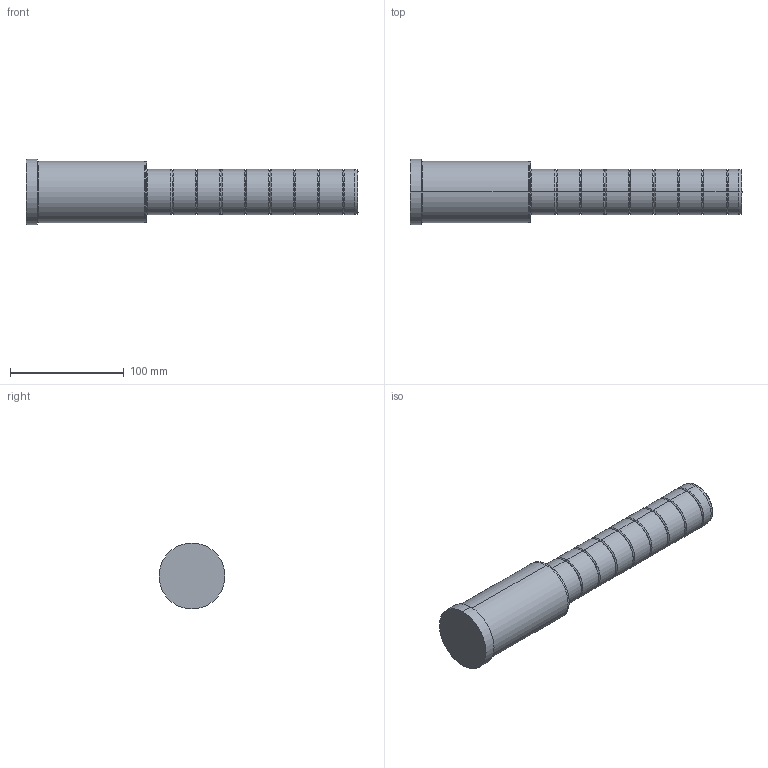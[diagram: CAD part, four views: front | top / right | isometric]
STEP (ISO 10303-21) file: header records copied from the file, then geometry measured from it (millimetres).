
FILE_DESCRIPTION( ( 'STEP AP203' ), '1' );
FILE_NAME( 'C:/Projects/D02 - 40x106x186.step', '2003-01-04T14:08:45', ( ' ' ), ( ' ' ), 'XStep 1.0', ' ', ' ' );
FILE_SCHEMA( ( 'CONFIG_CONTROL_DESIGN' ) );
Length unit declared in the file: metre
Products named in the file (1): 1
Bounding box: 292 x 58 x 58 mm (x, y, z)
Volume: 478451.4 mm3; surface area: 47624.2 mm2
Topology: 1 solids, 1 shells, 72 faces, 142 edges, 76 vertices
Faces by surface type: bspline 42, revolution 30
Entity records: 2315 total; most frequent: CARTESIAN_POINT 1017, ORIENTED_EDGE 284, DIRECTION 214, EDGE_CURVE 142, AXIS2_PLACEMENT_3D 77, EDGE_LOOP 76, VERTEX_POINT 76, CIRCLE 76
